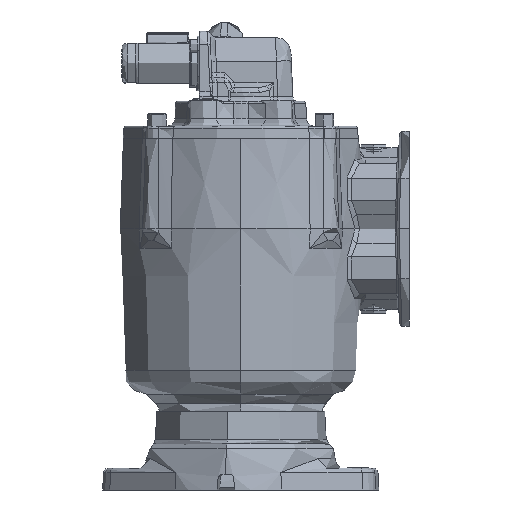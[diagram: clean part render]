
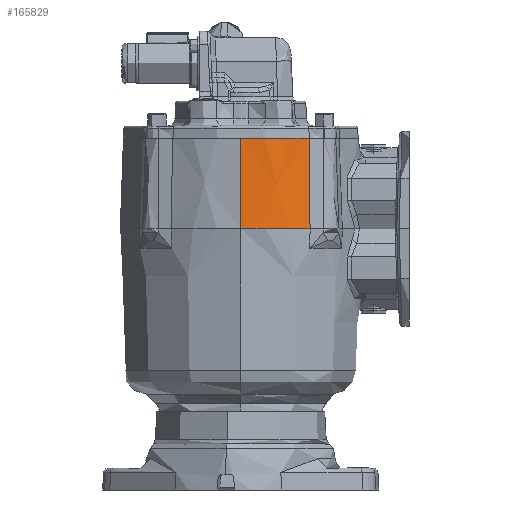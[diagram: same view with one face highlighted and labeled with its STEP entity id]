
A CAD part, left-side view. The second image highlights one B-rep face of the part: STEP entity #165829.
In plain terms, the highlighted conical face has half-angle 2 degrees and reference radius 78.232 mm.
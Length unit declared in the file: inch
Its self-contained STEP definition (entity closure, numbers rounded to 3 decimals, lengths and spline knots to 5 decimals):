
#6214 = B_SPLINE_CURVE_WITH_KNOTS ( 'NONE', 3,
 ( #39356, #144819, #85351, #13412 ),
 .UNSPECIFIED., .F., .F.,
 ( 4, 4 ),
 ( 0., 1. ),
 .UNSPECIFIED. ) ;
#13412 = CARTESIAN_POINT ( 'NONE',  ( -3.71437, 1.61717, 2.2645 ) ) ;
#21416 = CARTESIAN_POINT ( 'NONE',  ( -4.25092, 3.3296, 2.2645 ) ) ;
#33063 = CARTESIAN_POINT ( 'NONE',  ( -1.25, 3.3296, 0. ) ) ;
#33869 = CARTESIAN_POINT ( 'NONE',  ( -1.25, 3.3296, 0. ) ) ;
#37378 = EDGE_CURVE ( 'NONE', #40563, #64841, #6214, .T. ) ;
#39356 = CARTESIAN_POINT ( 'NONE',  ( -3.79389, 1.59322, 0. ) ) ;
#39514 = LINE ( 'NONE', #127718, #74912 ) ;
#40563 = VERTEX_POINT ( 'NONE', #160229 ) ;
#47497 = DIRECTION ( 'NONE',  ( 1., 0., 0. ) ) ;
#48393 = DIRECTION ( 'NONE',  ( -1., 0., 0. ) ) ;
#51992 = ORIENTED_EDGE ( 'NONE', *, *, #37378, .T. ) ;
#54082 = ORIENTED_EDGE ( 'NONE', *, *, #57760, .F. ) ;
#57760 = EDGE_CURVE ( 'NONE', #40563, #70092, #105107, .T. ) ;
#59066 = CONICAL_SURFACE ( 'NONE', #144879, 3.08, 0.035 ) ;
#63576 = DIRECTION ( 'NONE',  ( -1., 0., 0. ) ) ;
#64841 = VERTEX_POINT ( 'NONE', #99647 ) ;
#70092 = VERTEX_POINT ( 'NONE', #126887 ) ;
#74912 = VECTOR ( 'NONE', #186302, 39.37008 ) ;
#83798 = EDGE_CURVE ( 'NONE', #64841, #152170, #113647, .T. ) ;
#84396 = ORIENTED_EDGE ( 'NONE', *, *, #131881, .T. ) ;
#85351 = CARTESIAN_POINT ( 'NONE',  ( -3.74018, 1.60955, 1.53298 ) ) ;
#99647 = CARTESIAN_POINT ( 'NONE',  ( -3.71437, 1.61717, 2.2645 ) ) ;
#104502 = AXIS2_PLACEMENT_3D ( 'NONE', #161584, #178842, #48393 ) ;
#105107 = CIRCLE ( 'NONE', #123442, 3.08 ) ;
#106753 = FACE_OUTER_BOUND ( 'NONE', #140797, .T. ) ;
#113647 = CIRCLE ( 'NONE', #104502, 3.00092 ) ;
#123442 = AXIS2_PLACEMENT_3D ( 'NONE', #33063, #177949, #47497 ) ;
#126887 = CARTESIAN_POINT ( 'NONE',  ( -4.33, 3.3296, 0. ) ) ;
#127718 = CARTESIAN_POINT ( 'NONE',  ( -4.33, 3.3296, 0. ) ) ;
#131881 = EDGE_CURVE ( 'NONE', #152170, #70092, #39514, .T. ) ;
#140797 = EDGE_LOOP ( 'NONE', ( #142401, #84396, #54082, #51992 ) ) ;
#142401 = ORIENTED_EDGE ( 'NONE', *, *, #83798, .T. ) ;
#144819 = CARTESIAN_POINT ( 'NONE',  ( -3.76669, 1.60156, 0.77814 ) ) ;
#144879 = AXIS2_PLACEMENT_3D ( 'NONE', #33869, #150872, #63576 ) ;
#150872 = DIRECTION ( 'NONE',  ( 0., 0., -1. ) ) ;
#152170 = VERTEX_POINT ( 'NONE', #21416 ) ;
#160229 = CARTESIAN_POINT ( 'NONE',  ( -3.79389, 1.59322, 0. ) ) ;
#161584 = CARTESIAN_POINT ( 'NONE',  ( -1.25, 3.3296, 2.2645 ) ) ;
#165829 = ADVANCED_FACE ( 'NONE', ( #106753 ), #59066, .T. ) ;
#177949 = DIRECTION ( 'NONE',  ( 0., 0., -1. ) ) ;
#178842 = DIRECTION ( 'NONE',  ( 0., 0., -1. ) ) ;
#186302 = DIRECTION ( 'NONE',  ( -0.035, 0., -0.999 ) ) ;
